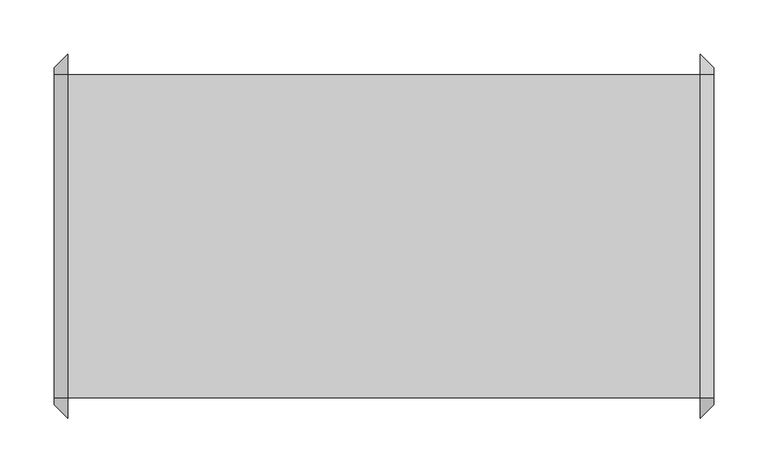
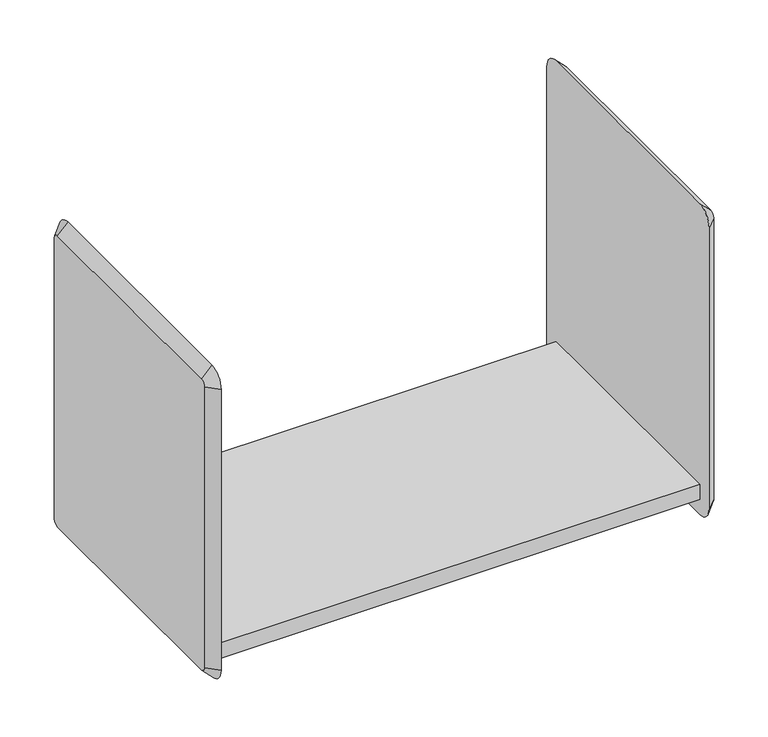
"""IFC4 building model written with IfcOpenShell, lengths in millimetres: furniture geometry, HermanMiller_ActionOffice_A3210_B-StyleShelf : 15-1/2H 13D 24W."""

from ifc_helpers import new_model, si_unit, frame, origin, place, context, project, spatial, polyline, circle_curve, outline, extrude, source, transform, mapped, element, save
from ifc_brep_helpers import plane_surface, revolved_surface, advanced_brep


def furniture_e7bd9e13(model_context):
    return source(origin(), model_context, "Body", "SolidModel", [
        extrude(outline(polyline([(168.1579955, 161.925), (168.1579955, 158.75), (-416.0420045, 158.75), (-416.0420045, 161.925), (168.1579955, 161.925)])), frame((0.0, 0.0, 1657.3152313), z_axis=(0.0, 0.0, 1.0), x_axis=(1.0, 0.0, 0.0)), (0.0, 0.0, 1.0), 15.9097687),
        extrude(outline(polyline([(-136.525, 1676.4), (161.925, 1676.4), (161.925, 1673.225), (-133.35, 1673.225), (-133.35, 1657.3152313), (-136.525, 1657.3152313), (-136.525, 1676.4)])), frame((-416.0420045, 0.0, 0.0), z_axis=(1.0, 0.0, 0.0), x_axis=(0.0, 1.0, 0.0)), (0.0, 0.0, 1.0), 584.2),
        advanced_brep(
        [(180.8579955, 161.925, 2019.3), (180.8579955, -136.525, 2019.3), (180.8579955, -142.875, 2012.95), (180.8579955, -142.875, 1657.35), (180.8579955, -136.525, 1651.0), (180.8579955, 161.925, 1651.0), (180.8579955, 168.275, 1657.35), (180.8579955, 168.275, 2012.95), (168.1579955, 161.925, 2032.0), (168.1579955, 180.975, 2012.95), (168.1579955, 180.975, 1657.35), (168.1579955, 161.925, 1638.3), (168.1579955, -136.525, 1638.3), (168.1579955, -155.575, 1657.35), (168.1579955, -155.575, 2012.95), (168.1579955, -136.525, 2032.0)],
        [
            (0, 1),
            (1, 2, circle_curve(frame((180.8579955, -136.525, 2012.95), z_axis=(1.0, 5.861977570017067e-12, -5.9898752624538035e-12), x_axis=(5.989902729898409e-12, 0.0, 1.0)), 6.35)),
            (2, 3),
            (3, 4, circle_curve(frame((180.8579955, -136.525, 1657.35), z_axis=(1.0, 5.134559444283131e-12, 5.094591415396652e-12), x_axis=(5.1345163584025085e-12, -1.0, 0.0)), 6.35)),
            (4, 5),
            (5, 6, circle_curve(frame((180.8579955, 161.925, 1657.35), z_axis=(1.0, 5.174527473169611e-12, -5.179856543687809e-12), x_axis=(-5.179892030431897e-12, 0.0, -1.0)), 6.35)),
            (6, 7),
            (7, 0, circle_curve(frame((180.8579955, 161.925, 2012.95), z_axis=(1.0, 5.869971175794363e-12, 5.7340798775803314e-12), x_axis=(-5.869947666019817e-12, 1.0, 0.0)), 6.35)),
            (8, 9, circle_curve(frame((168.1579955, 161.925, 2012.95), z_axis=(-1.0, -5.869971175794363e-12, -5.7340798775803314e-12), x_axis=(-5.869947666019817e-12, 1.0, 0.0)), 19.05)),
            (9, 10),
            (10, 11, circle_curve(frame((168.1579955, 161.925, 1657.35), z_axis=(-1.0, -5.174527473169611e-12, 5.179856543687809e-12), x_axis=(-5.179892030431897e-12, 0.0, -1.0)), 19.05)),
            (11, 12),
            (12, 13, circle_curve(frame((168.1579955, -136.525, 1657.35), z_axis=(-1.0, -5.134559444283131e-12, -5.094591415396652e-12), x_axis=(5.1345163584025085e-12, -1.0, 0.0)), 19.05)),
            (13, 14),
            (14, 15, circle_curve(frame((168.1579955, -136.525, 2012.95), z_axis=(-1.0, -5.861977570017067e-12, 5.9898752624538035e-12), x_axis=(5.989902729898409e-12, 0.0, 1.0)), 19.05)),
            (15, 8),
            (15, 1),
            (0, 8),
            (14, 2),
            (13, 3),
            (12, 4),
            (11, 5),
            (10, 6),
            (9, 7),
        ],
        [
            plane_surface(frame((180.8579955, 12.7, 1835.15), z_axis=(1.0, 0.0, 0.0), x_axis=(0.0, -1.0, 0.0))),
            plane_surface(frame((168.1579955, 12.7, 1835.15), z_axis=(-1.0, 0.0, 0.0), x_axis=(0.0, -1.0, 0.0))),
            plane_surface(frame((168.1579955, 12.7, 2032.0), z_axis=(0.7071067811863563, 0.0, 0.7071067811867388), x_axis=(0.0, -1.0, 0.0))),
            revolved_surface(polyline([(180.85799550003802, -136.525, 2019.299999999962), (168.1579955, -136.525, 2032.0)]), (187.2079955, -136.525, 2012.95), (-1.0, -5.861977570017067e-12, 5.9898752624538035e-12)),
            plane_surface(frame((168.1579955, -155.575, 1835.15), z_axis=(0.7071067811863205, -0.7071067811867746, 0.0), x_axis=(0.0, 0.0, -1.0))),
            revolved_surface(polyline([(180.8579955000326, -142.87499999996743, 1657.35), (168.1579955, -155.575, 1657.35)]), (187.2079955, -136.525, 1657.35), (-1.0, -5.134559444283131e-12, -5.094591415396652e-12)),
            plane_surface(frame((168.1579955, 12.7, 1638.3), z_axis=(0.707106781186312, 0.0, -0.707106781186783), x_axis=(0.0, 1.0, 0.0))),
            revolved_surface(polyline([(180.8579955, 161.925, 1651.0), (168.15799549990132, 161.925, 1638.2999999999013)]), (187.2079955, 161.925, 1657.35), (-1.0, -5.174527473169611e-12, 5.179856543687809e-12)),
            plane_surface(frame((168.1579955, 180.975, 1835.15), z_axis=(0.7071067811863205, 0.7071067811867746, 0.0), x_axis=(0.0, 0.0, 1.0))),
            revolved_surface(polyline([(180.8579955, 168.27500000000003, 2012.95), (168.1579954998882, 180.9750000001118, 2012.95)]), (187.2079955, 161.925, 2012.95), (-1.0, -5.869971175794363e-12, -5.7340798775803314e-12)),
        ],
        [
            (0, [[1, 2, 3, 4, 5, 6, 7, 8]]),
            (1, [[9, 10, 11, 12, 13, 14, 15, 16]]),
            (2, [[-16, 17, -1, 18]]),
            (3, [[-15, 19, -2, -17]]),
            (4, [[-14, 20, -3, -19]]),
            (5, [[-13, 21, -4, -20]]),
            (6, [[-12, 22, -5, -21]]),
            (7, [[-11, 23, -6, -22]]),
            (8, [[-10, 24, -7, -23]]),
            (9, [[-9, -18, -8, -24]]),
        ],
    ),
        advanced_brep(
        [(-428.7420045, -136.525, 2019.3), (-428.7420045, 161.925, 2019.3), (-428.7420045, 168.275, 2012.95), (-428.7420045, 168.275, 1657.35), (-428.7420045, 161.925, 1651.0), (-428.7420045, -136.525, 1651.0), (-428.7420045, -142.875, 1657.35), (-428.7420045, -142.875, 2012.95), (-416.0420045, -136.525, 2032.0), (-416.0420045, -155.575, 2012.95), (-416.0420045, -155.575, 1657.35), (-416.0420045, -136.525, 1638.3), (-416.0420045, 161.925, 1638.3), (-416.0420045, 180.975, 1657.35), (-416.0420045, 180.975, 2012.95), (-416.0420045, 161.925, 2032.0)],
        [
            (0, 1),
            (1, 2, circle_curve(frame((-428.7420045, 161.925, 2012.95), z_axis=(-1.0, 3.434585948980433e-12, 3.5385028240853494e-12), x_axis=(3.5385173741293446e-12, 0.0, 1.0)), 6.35)),
            (2, 3),
            (3, 4, circle_curve(frame((-428.7420045, 161.925, 1657.35), z_axis=(-1.0, 0.0, 0.0), x_axis=(0.0, 1.0, 0.0)), 6.35)),
            (4, 5),
            (5, 6, circle_curve(frame((-428.7420045, -136.525, 1657.35), z_axis=(-1.0, 0.0, 0.0), x_axis=(0.0, 0.0, -1.0)), 6.35)),
            (6, 7),
            (7, 0, circle_curve(frame((-428.7420045, -136.525, 2012.95), z_axis=(-1.0, 3.434585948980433e-12, -3.325340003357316e-12), x_axis=(-3.434577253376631e-12, -1.0, 0.0)), 6.35)),
            (8, 9, circle_curve(frame((-416.0420045, -136.525, 2012.95), z_axis=(1.0, -3.434585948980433e-12, 3.325340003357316e-12), x_axis=(-3.434577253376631e-12, -1.0, 0.0)), 19.05)),
            (9, 10),
            (10, 11, circle_curve(frame((-416.0420045, -136.525, 1657.35), z_axis=(1.0, 0.0, 0.0), x_axis=(0.0, 0.0, -1.0)), 19.05)),
            (11, 12),
            (12, 13, circle_curve(frame((-416.0420045, 161.925, 1657.35), z_axis=(1.0, 0.0, 0.0), x_axis=(0.0, 1.0, 0.0)), 19.05)),
            (13, 14),
            (14, 15, circle_curve(frame((-416.0420045, 161.925, 2012.95), z_axis=(1.0, -3.434585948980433e-12, -3.5385028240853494e-12), x_axis=(3.5385173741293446e-12, 0.0, 1.0)), 19.05)),
            (15, 8),
            (15, 1),
            (0, 8),
            (14, 2),
            (13, 3),
            (12, 4),
            (11, 5),
            (10, 6),
            (9, 7),
        ],
        [
            plane_surface(frame((-428.7420045, 12.7, 1835.15), z_axis=(-1.0, 0.0, 0.0), x_axis=(0.0, -1.0, 0.0))),
            plane_surface(frame((-416.0420045, 12.7, 1835.15), z_axis=(1.0, 0.0, 0.0), x_axis=(0.0, -1.0, 0.0))),
            plane_surface(frame((-416.0420045, 12.7, 2032.0), z_axis=(-0.7071067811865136, 0.0, 0.7071067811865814), x_axis=(0.0, 1.0, 0.0))),
            revolved_surface(polyline([(-428.7420045, 161.925, 2019.3), (-416.0420044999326, 161.925, 2032.0000000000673)]), (-435.0920045, 161.925, 2012.95), (1.0, -3.434585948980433e-12, -3.5385028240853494e-12)),
            plane_surface(frame((-416.0420045, 180.975, 1835.15), z_axis=(-0.7071067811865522, 0.7071067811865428, 0.0), x_axis=(0.0, 0.0, -1.0))),
            revolved_surface(polyline([(-428.7420045, 168.27499999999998, 1657.35), (-416.0420045, 180.975, 1657.35)]), (-435.0920045, 161.925, 1657.35), (1.0, 0.0, 0.0)),
            plane_surface(frame((-416.0420045, 12.7, 1638.3), z_axis=(-0.7071067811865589, 0.0, -0.7071067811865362), x_axis=(0.0, -1.0, 0.0))),
            revolved_surface(polyline([(-428.7420045, -136.525, 1651.0), (-416.0420045, -136.525, 1638.3)]), (-435.0920045, -136.525, 1657.35), (1.0, 0.0, 0.0)),
            plane_surface(frame((-416.0420045, -155.575, 1835.15), z_axis=(-0.7071067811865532, -0.7071067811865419, 0.0), x_axis=(0.0, 0.0, 1.0))),
            revolved_surface(polyline([(-428.74200450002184, -142.87499999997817, 2012.95), (-416.0420045, -155.575, 2012.95)]), (-435.0920045, -136.525, 2012.95), (1.0, -3.434585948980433e-12, 3.325340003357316e-12)),
        ],
        [
            (0, [[1, 2, 3, 4, 5, 6, 7, 8]]),
            (1, [[9, 10, 11, 12, 13, 14, 15, 16]]),
            (2, [[-16, 17, -1, 18]]),
            (3, [[-15, 19, -2, -17]]),
            (4, [[-14, 20, -3, -19]]),
            (5, [[-13, 21, -4, -20]]),
            (6, [[-12, 22, -5, -21]]),
            (7, [[-11, 23, -6, -22]]),
            (8, [[-10, 24, -7, -23]]),
            (9, [[-9, -18, -8, -24]]),
        ],
    ),
    ])


if __name__ == "__main__":
    model = new_model("IFC4")
    model_context = context("Model", 3, world=origin())
    ifc_project = project(units=[si_unit("LENGTHUNIT", "METRE", prefix="MILLI")], contexts=[model_context])
    site = spatial("IfcSite", under=ifc_project)
    building = spatial("IfcBuilding", under=site)
    placement = place(None, origin())
    furniture_shape = furniture_e7bd9e13(model_context)
    element("IfcFurniture", 1, ObjectType="HermanMiller_ActionOffice_A3210_B-StyleShelf : 15-1/2H 13D 24W", at=placement, inside=building, context=model_context, shape_type="MappedRepresentation", body=[
        mapped(furniture_shape, transform((0.0, 0.0, 0.0), x_axis=(1.0, 0.0, 0.0), y_axis=(0.0, 1.0, 0.0), z_axis=(0.0, 0.0, 1.0))),
    ])
    save(model, "model.ifc")
